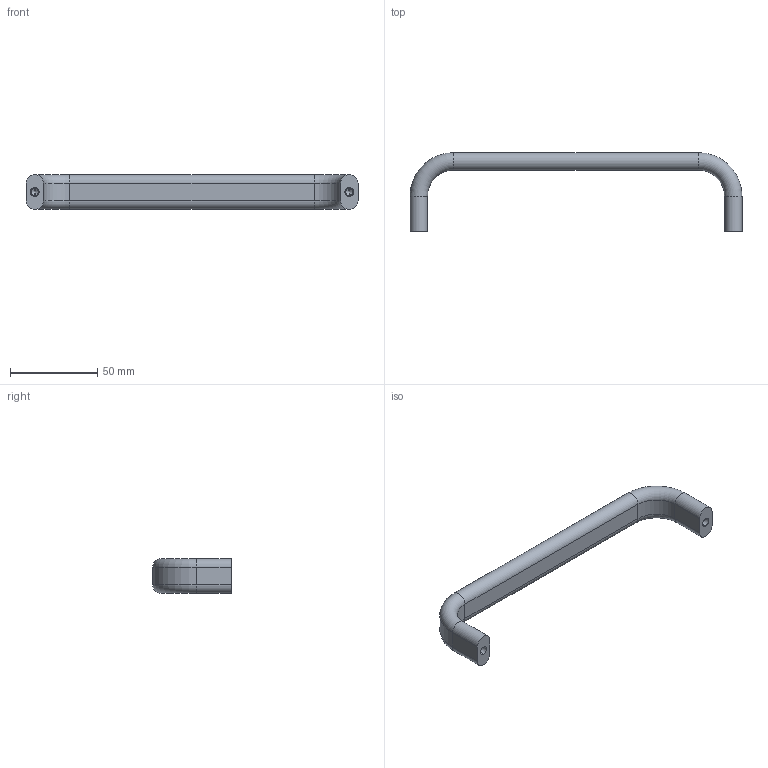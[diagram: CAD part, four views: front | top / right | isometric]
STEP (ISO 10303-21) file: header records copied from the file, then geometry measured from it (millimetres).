
FILE_DESCRIPTION (( 'STEP AP203' ), '1' );
FILE_NAME ('7803.W180-4.step', '2010-02-11T18:09:48', ( 'Wixroyd' ), ( 'Wixroyd' ), 'SwSTEP 2.0', 'SolidWorks 2009', '' );
FILE_SCHEMA (( 'CONFIG_CONTROL_DESIGN' ));
Length unit declared in the file: millimetre
Products named in the file (1): 7803.W180-4
Bounding box: 190 x 45 x 20 mm (x, y, z)
Volume: 42882 mm3; surface area: 13226.9 mm2
Topology: 1 solids, 1 shells, 38 faces, 82 edges, 46 vertices
Faces by surface type: cylinder 20, plane 10, cone 4, torus 4
Entity records: 1075 total; most frequent: DIRECTION 196, CARTESIAN_POINT 163, ORIENTED_EDGE 156, AXIS2_PLACEMENT_3D 79, EDGE_CURVE 78, VERTEX_POINT 46, EDGE_LOOP 42, CIRCLE 40
